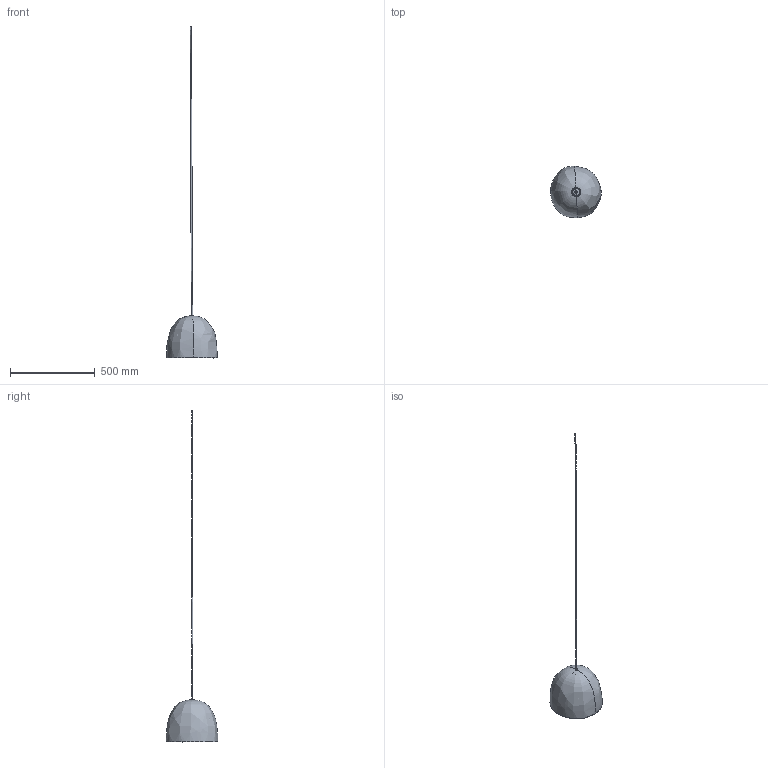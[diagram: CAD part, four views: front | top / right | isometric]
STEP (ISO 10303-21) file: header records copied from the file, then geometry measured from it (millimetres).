
FILE_DESCRIPTION(/* description */ (''),/* implementation_level */ '2;1');
FILE_NAME(/* name */ 'Speckle Pendant Large_3D',/* time_stamp */ '2021-05-03T15:35:13+02:00',/* author */ (''),/* organization */ (''),/* preprocessor_version */ 'ST-DEVELOPER v16.5',/* originating_system */ '',/* authorisation */ '');
FILE_SCHEMA (('CONFIG_CONTROL_DESIGN'));
Length unit declared in the file: millimetre
Products named in the file (1): Document
Bounding box: 300.21 x 304.29 x 1962.85 mm (x, y, z)
Volume: 1784282.6 mm3; surface area: 535618.3 mm2
Topology: 7 solids, 7 shells, 56 faces, 129 edges, 74 vertices
Faces by surface type: bspline 34, cylinder 16, plane 6
Entity records: 9512 total; most frequent: CARTESIAN_POINT 8683, ORIENTED_EDGE 242, EDGE_CURVE 121, VERTEX_POINT 74, EDGE_LOOP 57, ADVANCED_FACE 56, FACE_OUTER_BOUND 56, B_SPLINE_CURVE_WITH_KNOTS 42
